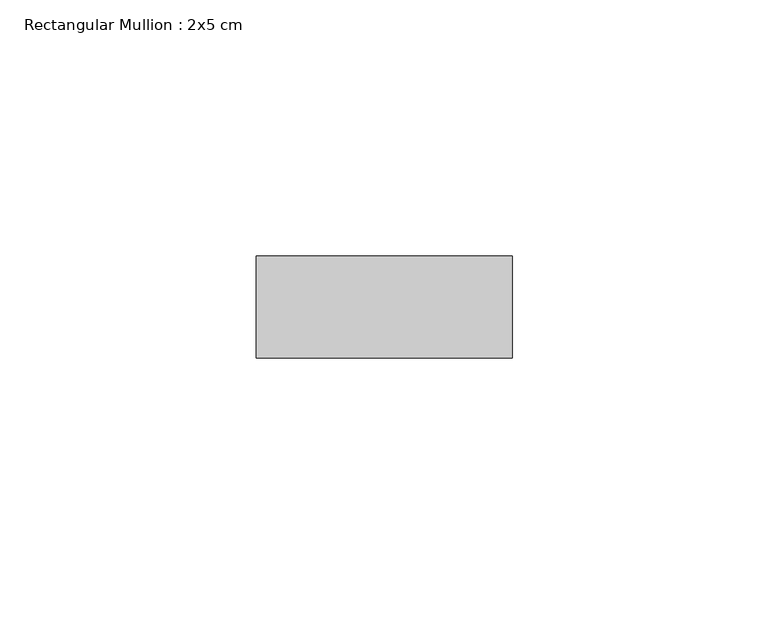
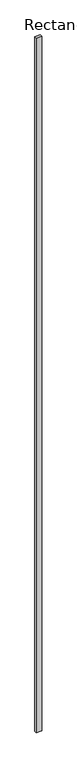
"""IFC4 building model written with IfcOpenShell, lengths in millimetres: member geometry, Rectangular Mullion : 2x5 cm."""

from ifc_helpers import new_model, si_unit, frame, origin, place, context, project, spatial, polyline, outline, extrude, source, transform, mapped, element, save


def rectangular_mullion_2x5_cm_b2c595d9(model_context):
    return source(origin(), model_context, "Body", "SweptSolid", [
        extrude(outline(polyline([(50.0, 20.0), (50.0, 0.0), (0.0, 0.0), (0.0, 20.0), (50.0, 20.0)])), frame((0.0, 0.0, -6571.7073713), z_axis=(0.0, 0.0, 1.0), x_axis=(1.0, 0.0, 0.0)), (0.0, 0.0, 1.0), 6571.7073713),
    ])


if __name__ == "__main__":
    model = new_model("IFC4")
    model_context = context("Model", 3, world=origin())
    ifc_project = project(units=[si_unit("LENGTHUNIT", "METRE", prefix="MILLI")], contexts=[model_context])
    site = spatial("IfcSite", under=ifc_project)
    building = spatial("IfcBuilding", under=site)
    placement = place(None, origin())
    rectangular_mullion_2x5_cm_shape = rectangular_mullion_2x5_cm_b2c595d9(model_context)
    element("IfcMember", 1, ObjectType="Rectangular Mullion : 2x5 cm", at=placement, inside=building, context=model_context, shape_type="MappedRepresentation", body=[
        mapped(rectangular_mullion_2x5_cm_shape, transform((0.0, 0.0, 0.0), x_axis=(1.0, 0.0, 0.0), y_axis=(0.0, 1.0, 0.0), z_axis=(0.0, 0.0, 1.0))),
    ])
    save(model, "model.ifc")
